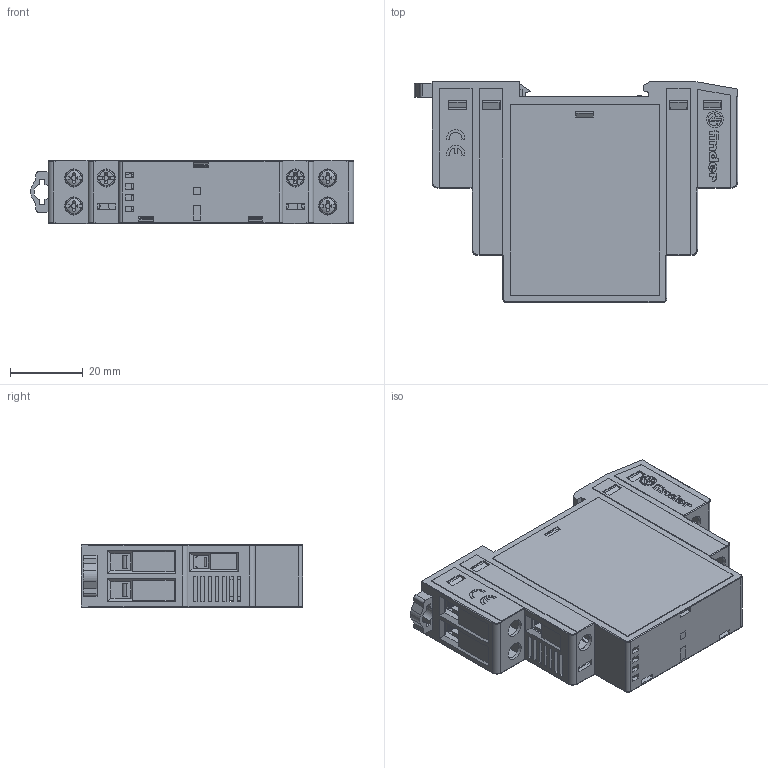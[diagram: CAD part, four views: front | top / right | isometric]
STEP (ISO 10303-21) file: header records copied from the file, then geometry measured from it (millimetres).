
FILE_DESCRIPTION(/* description */ ('Unknown'),/* implementation_level */ '2;1');
FILE_NAME(/* name */ '2232_2NO_senza_slitta',/* time_stamp */ '2025-02-14T08:33:52+01:00',/* author */ ('Unknown'),/* organization */ ('Unknown'),/* preprocessor_version */ 'ST-DEVELOPER v18.102',/* originating_system */ 'Solid Edge',/* authorisation */ 'Unknown');
FILE_SCHEMA (('AUTOMOTIVE_DESIGN {1 0 10303 214 3 1 1}'));
Products named in the file (1): 2232_2NO_senza_slitta
Bounding box: 88.85 x 60.8 x 17.5 mm (x, y, z)
Volume: 25714.7 mm3; surface area: 45878.6 mm2
Topology: 2 solids, 10 shells, 3514 faces, 10146 edges, 6573 vertices
Faces by surface type: plane 2915, cylinder 438, cone 60, bspline 56, torus 37, sphere 8
Full cylindrical faces by diameter (mm): 0.252 x1, 0.374 x2, 0.429 x5, 1.2 x2, 1.4 x2, 1.5 x17, 1.7 x2, 1.8 x1, 2 x3, 2.3 x2, 2.4 x2, 2.459 x2, 2.5 x4, 2.7 x4, 2.85 x4, 3 x4, 3.5 x4, 3.6 x2, 3.601 x2, 4.2 x4, 4.201 x4, 4.566 x2, 4.6 x2, 5 x7, 6 x1
Entity records: 140980 total; most frequent: CARTESIAN_POINT 25121, ORIENTED_EDGE 19922, DIRECTION 17208, EDGE_CURVE 9961, LINE 8208, VECTOR 8208, VERTEX_POINT 6515, AXIS2_PLACEMENT_3D 4500
